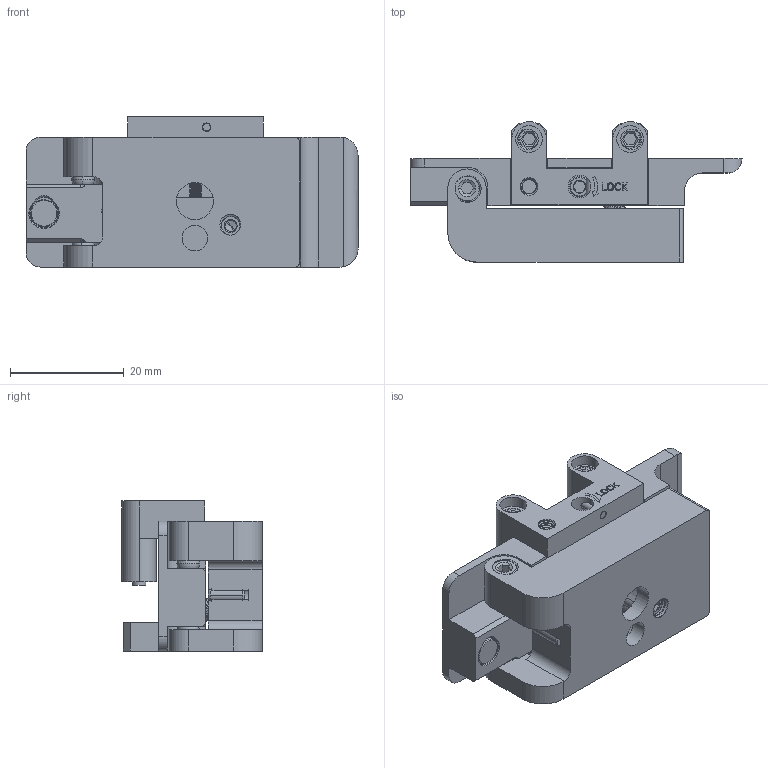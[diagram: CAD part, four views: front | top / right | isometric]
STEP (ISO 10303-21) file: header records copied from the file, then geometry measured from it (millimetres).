
FILE_DESCRIPTION((''),'2;1');
FILE_NAME('FM90-RC_ASM','2026-05-21T12:02:55',('R&D'),(''),'CREO PARAMETRIC BY PTC INC, 2021063','CREO PARAMETRIC BY PTC INC, 2021063','');
FILE_SCHEMA(('CONFIG_CONTROL_DESIGN'));
Products named in the file (21): FM90-RC-A2; FM90-RC-A3; FM90-RC-A4; FM90-RC-A5; FM90-RC-A6; FM90-RC-A7; FM90-RC-A8; FM90-RC-A9; FM90-RC-B1; FM90-RC-B2; FM90-RC-B3; FM90-RC-B4; FM90-RC-B5; FM90-RC-B6; FM90-RC-B7; FM90-RC-B8; FM90-RC-B9; FM90-RC-C1; FM90-RC-C2; FM90-RC-A1_ASM; FM90-RC_ASM
Assembly tree (20 placements, depth 3):
  FM90-RC_ASM
    FM90-RC-A1_ASM
      FM90-RC-A2
      FM90-RC-A3
      FM90-RC-A4
      FM90-RC-A5
      FM90-RC-A6
      FM90-RC-A7
      FM90-RC-A8
      FM90-RC-A9
      FM90-RC-B1
      FM90-RC-B2
      FM90-RC-B3
      FM90-RC-B4
      FM90-RC-B5
      FM90-RC-B6
      FM90-RC-B7
      FM90-RC-B8
      FM90-RC-B9
      FM90-RC-C1
      FM90-RC-C2
Bounding box: 58.42 x 24.69 x 26.42 mm (x, y, z)
Volume: 16182.9 mm3; surface area: 12422.3 mm2
Topology: 18 solids, 18 shells, 939 faces, 2464 edges, 1573 vertices
Faces by surface type: cylinder 467, plane 199, cone 116, bspline 105, extrusion 25, torus 14, sphere 13
Entity records: 66698 total; most frequent: CARTESIAN_POINT 45099, ORIENTED_EDGE 4892, DIRECTION 3632, EDGE_CURVE 2446, VERTEX_POINT 1573, AXIS2_PLACEMENT_3D 1288, VECTOR 1056, LINE 1031
